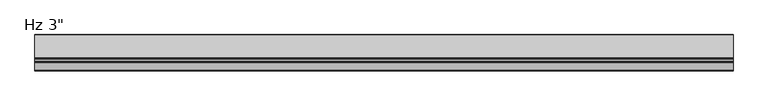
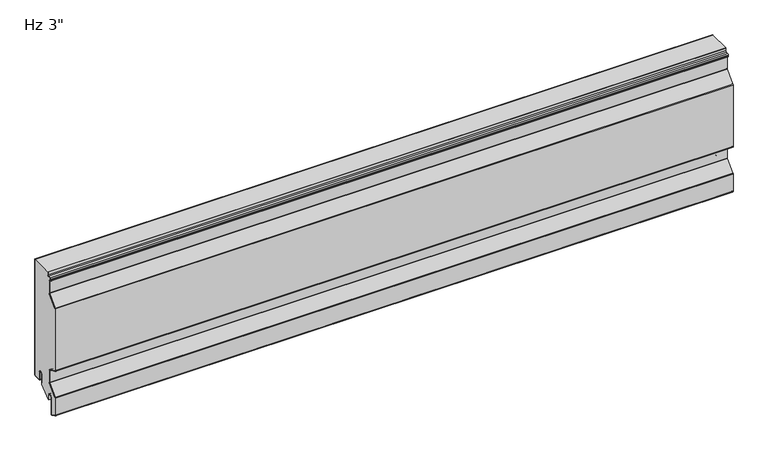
"""IFC4 building model written with IfcOpenShell, lengths in millimetres: plate geometry."""

from ifc_helpers import new_model, si_unit, point, frame, frame_2d, origin, place, context, project, spatial, polyline, circle_curve, trimmed, segment, composite_curve, outline, extrude, source, transform, mapped, element, save


def plate_f417a01e(model_context):
    return source(origin(), model_context, "Body", "SweptSolid", [
        extrude(outline(composite_curve([segment(polyline([(-26.4011912, 19.05), (-26.4011912, -3.1976612), (-49.233822, -23.01875), (-51.3886912, -23.01875), (-51.3886912, -11.90625)]), True, "CONTINUOUS"), segment(trimmed(circle_curve(frame_2d((-56.3574412, -11.90625)), 4.96875), [point((-51.3886912, -11.90625))], [point((-61.3261912, -11.90625))], True, "CARTESIAN"), True, "CONTINUOUS"), segment(polyline([(-61.3261912, -11.90625), (-61.3261912, -48.8194049)]), True, "CONTINUOUS"), segment(trimmed(circle_curve(frame_2d((-62.7074412, -48.8194049)), 1.38125), [point((-61.3261912, -48.8194049))], [point((-63.2666208, -50.0824052))], False, "CARTESIAN"), True, "CONTINUOUS"), segment(polyline([(-63.2666208, -50.0824052), (-74.3779296, -45.1629946)]), True, "CONTINUOUS"), segment(trimmed(circle_curve(frame_2d((-73.81875, -43.8999943)), 1.38125), [point((-74.3779296, -45.1629946))], [point((-75.2, -43.8999943))], False, "CARTESIAN"), True, "CONTINUOUS"), segment(polyline([(-75.2, -43.8999943), (-75.2, -5.0536946)]), True, "CONTINUOUS"), segment(trimmed(circle_curve(frame_2d((-73.1012, -5.0536946)), 2.0988), [point((-75.2, -5.0536946))], [point((-74.6092077, -3.5939431))], False, "CARTESIAN"), True, "CONTINUOUS"), segment(polyline([(-74.6092077, -3.5939431), (-54.4145567, 17.2682996)]), True, "CONTINUOUS"), segment(trimmed(circle_curve(frame_2d((-56.2737, 19.0679503)), 2.5875), [point((-54.4145567, 17.2682996))], [point((-53.6862, 19.0679503))], True, "CARTESIAN"), True, "CONTINUOUS"), segment(polyline([(-53.6862, 19.0679503), (-53.6862, 45.5917981)]), True, "CONTINUOUS"), segment(trimmed(circle_curve(frame_2d((-56.2737, 45.5917981)), 2.5875), [point((-53.6862, 45.5917981))], [point((-55.2261871, 47.9577806))], True, "CARTESIAN"), True, "CONTINUOUS"), segment(polyline([(-55.2261871, 47.9577806), (-74.3779296, 56.4370054)]), True, "CONTINUOUS"), segment(trimmed(circle_curve(frame_2d((-73.81875, 57.7000057)), 1.38125), [point((-74.3779296, 56.4370054))], [point((-75.2, 57.7000057))], False, "CARTESIAN"), True, "CONTINUOUS"), segment(polyline([(-75.2, 57.7000057), (-75.2, 198.4367131)]), True, "CONTINUOUS"), segment(trimmed(circle_curve(frame_2d((-73.81875, 198.4367131)), 1.38125), [point((-75.2, 198.4367131))], [point((-74.8111912, 199.3973962))], False, "CARTESIAN"), True, "CONTINUOUS"), segment(polyline([(-74.8111912, 199.3973962), (-54.4145567, 220.4682996)]), True, "CONTINUOUS"), segment(trimmed(circle_curve(frame_2d((-56.2737, 222.2679503)), 2.5875), [point((-54.4145567, 220.4682996))], [point((-53.6862, 222.2679503))], True, "CARTESIAN"), True, "CONTINUOUS"), segment(polyline([(-53.6862, 222.2679503), (-53.6862, 248.7917981)]), True, "CONTINUOUS"), segment(trimmed(circle_curve(frame_2d((-56.2737, 248.7917981)), 2.5875), [point((-53.6862, 248.7917981))], [point((-55.2261871, 251.1577806))], True, "CARTESIAN"), True, "CONTINUOUS"), segment(polyline([(-55.2261871, 251.1577806), (-56.9166208, 251.9062016)]), True, "CONTINUOUS"), segment(trimmed(circle_curve(frame_2d((-56.3574412, 253.1692019)), 1.38125), [point((-56.9166208, 251.9062016))], [point((-57.7386912, 253.1692019))], False, "CARTESIAN"), True, "CONTINUOUS"), segment(polyline([(-57.7386912, 253.1692019), (-57.7386912, 255.4967085)]), True, "CONTINUOUS"), segment(trimmed(circle_curve(frame_2d((-56.3574412, 255.4967085)), 1.38125), [point((-57.7386912, 255.4967085))], [point((-56.4297302, 256.8760655))], False, "CARTESIAN"), True, "CONTINUOUS"), segment(polyline([(-56.4297302, 256.8760655), (-50.6657719, 257.1781418)]), True, "CONTINUOUS"), segment(trimmed(circle_curve(frame_2d((-50.8011912, 259.7620957)), 2.5875), [point((-50.6657719, 257.1781418))], [point((-48.2136912, 259.7620957))], True, "CARTESIAN"), True, "CONTINUOUS"), segment(polyline([(-48.2136912, 259.7620957), (-48.2136912, 266.4), (-1.0011912, 266.4), (-1.0011912, 3.175)]), True, "CONTINUOUS"), segment(trimmed(circle_curve(frame_2d((-2.3824412, 3.175)), 1.38125), [point((-1.0011912, 3.175))], [point((-2.3824412, 1.79375))], False, "CARTESIAN"), True, "CONTINUOUS"), segment(polyline([(-2.3824412, 1.79375), (-15.0824412, 1.79375)]), True, "CONTINUOUS"), segment(trimmed(circle_curve(frame_2d((-15.0824412, 3.175)), 1.38125), [point((-15.0824412, 1.79375))], [point((-16.4636912, 3.175))], False, "CARTESIAN"), True, "CONTINUOUS"), segment(polyline([(-16.4636912, 3.175), (-16.4636912, 19.05)]), True, "CONTINUOUS"), segment(trimmed(circle_curve(frame_2d((-21.4324412, 19.05)), 4.96875), [point((-16.4636912, 19.05))], [point((-26.4011912, 19.05))], True, "CARTESIAN"), True, "CONTINUOUS")], self_intersect=False)), frame((-730.0, 0.0, 0.0), z_axis=(1.0, 0.0, 0.0), x_axis=(0.0, 1.0, 0.0)), (0.0, 0.0, 1.0), 1460.0),
        extrude(outline(composite_curve([segment(polyline([(-25.4, 0.79375), (-26.4, 0.79375), (-26.4, 19.05)]), True, "CONTINUOUS"), segment(trimmed(circle_curve(frame_2d((-21.43125, 19.05)), 4.96875), [point((-26.4, 19.05))], [point((-16.4625, 19.05))], False, "CARTESIAN"), True, "CONTINUOUS"), segment(polyline([(-16.4625, 19.05), (-16.4625, 3.175)]), True, "CONTINUOUS"), segment(trimmed(circle_curve(frame_2d((-15.08125, 3.175)), 1.38125), [point((-16.4625, 3.175))], [point((-15.08125, 1.79375))], True, "CARTESIAN"), True, "CONTINUOUS"), segment(polyline([(-15.08125, 1.79375), (-2.38125, 1.79375)]), True, "CONTINUOUS"), segment(trimmed(circle_curve(frame_2d((-2.38125, 3.175)), 1.38125), [point((-2.38125, 1.79375))], [point((-1.0, 3.175))], True, "CARTESIAN"), True, "CONTINUOUS"), segment(polyline([(-1.0, 3.175), (-1.0, 266.4), (0.0, 266.4), (0.0, 3.175)]), True, "CONTINUOUS"), segment(trimmed(circle_curve(frame_2d((-2.38125, 3.175)), 2.38125), [point((0.0, 3.175))], [point((-2.38125, 0.79375))], False, "CARTESIAN"), True, "CONTINUOUS"), segment(polyline([(-2.38125, 0.79375), (-15.08125, 0.79375)]), True, "CONTINUOUS"), segment(trimmed(circle_curve(frame_2d((-15.08125, 3.175)), 2.38125), [point((-15.08125, 0.79375))], [point((-17.4625, 3.175))], False, "CARTESIAN"), True, "CONTINUOUS"), segment(polyline([(-17.4625, 3.175), (-17.4625, 19.05)]), True, "CONTINUOUS"), segment(trimmed(circle_curve(frame_2d((-21.43125, 19.05)), 3.96875), [point((-17.4625, 19.05))], [point((-25.4, 19.05))], True, "CARTESIAN"), True, "CONTINUOUS"), segment(polyline([(-25.4, 19.05), (-25.4, 0.79375)]), True, "CONTINUOUS")], self_intersect=False)), frame((-730.0, 0.0, 0.0), z_axis=(1.0, 0.0, 0.0), x_axis=(0.0, 1.0, 0.0)), (0.0, 0.0, 1.0), 1460.0),
        extrude(outline(composite_curve([segment(polyline([(-60.3261912, -11.90625), (-60.3261912, -48.8194049)]), True, "CONTINUOUS"), segment(trimmed(circle_curve(frame_2d((-62.7074412, -48.8194049)), 2.38125), [point((-60.3261912, -48.8194049))], [point((-63.6714567, -50.9967946))], False, "CARTESIAN"), True, "CONTINUOUS"), segment(polyline([(-63.6714567, -50.9967946), (-74.7827655, -46.0773839)]), True, "CONTINUOUS"), segment(trimmed(circle_curve(frame_2d((-73.81875, -43.8999943)), 2.38125), [point((-74.7827655, -46.0773839))], [point((-76.2, -43.8999943))], False, "CARTESIAN"), True, "CONTINUOUS"), segment(polyline([(-76.2, -43.8999943), (-76.2, -5.0536946)]), True, "CONTINUOUS"), segment(trimmed(circle_curve(frame_2d((-73.1012, -5.0536946)), 3.0988), [point((-76.2, -5.0536946))], [point((-75.3277172, -2.8984259))], False, "CARTESIAN"), True, "CONTINUOUS"), segment(polyline([(-75.3277172, -2.8984259), (-55.1330662, 17.9638168)]), True, "CONTINUOUS"), segment(trimmed(circle_curve(frame_2d((-56.2737, 19.0679503)), 1.5875), [point((-55.1330662, 17.9638168))], [point((-54.6862, 19.0679503))], True, "CARTESIAN"), True, "CONTINUOUS"), segment(polyline([(-54.6862, 19.0679503), (-54.6862, 45.5917981)]), True, "CONTINUOUS"), segment(trimmed(circle_curve(frame_2d((-56.2737, 45.5917981)), 1.5875), [point((-54.6862, 45.5917981))], [point((-55.631023, 47.0433912))], True, "CARTESIAN"), True, "CONTINUOUS"), segment(polyline([(-55.631023, 47.0433912), (-74.7827655, 55.5226161)]), True, "CONTINUOUS"), segment(trimmed(circle_curve(frame_2d((-73.81875, 57.7000057)), 2.38125), [point((-74.7827655, 55.5226161))], [point((-76.2, 57.7000057))], False, "CARTESIAN"), True, "CONTINUOUS"), segment(polyline([(-76.2, 57.7000057), (-76.2, 198.4367131)]), True, "CONTINUOUS"), segment(trimmed(circle_curve(frame_2d((-73.81875, 198.4367131)), 2.38125), [point((-76.2, 198.4367131))], [point((-75.5297007, 200.0929134))], False, "CARTESIAN"), True, "CONTINUOUS"), segment(polyline([(-75.5297007, 200.0929134), (-55.1330662, 221.1638168)]), True, "CONTINUOUS"), segment(trimmed(circle_curve(frame_2d((-56.2737, 222.2679503)), 1.5875), [point((-55.1330662, 221.1638168))], [point((-54.6862, 222.2679503))], True, "CARTESIAN"), True, "CONTINUOUS"), segment(polyline([(-54.6862, 222.2679503), (-54.6862, 248.7917981)]), True, "CONTINUOUS"), segment(trimmed(circle_curve(frame_2d((-56.2737, 248.7917981)), 1.5875), [point((-54.6862, 248.7917981))], [point((-55.631023, 250.2433912))], True, "CARTESIAN"), True, "CONTINUOUS"), segment(polyline([(-55.631023, 250.2433912), (-57.3214567, 250.9918123)]), True, "CONTINUOUS"), segment(trimmed(circle_curve(frame_2d((-56.3574412, 253.1692019)), 2.38125), [point((-57.3214567, 250.9918123))], [point((-58.7386912, 253.1692019))], False, "CARTESIAN"), True, "CONTINUOUS"), segment(polyline([(-58.7386912, 253.1692019), (-58.7386912, 255.4967085)]), True, "CONTINUOUS"), segment(trimmed(circle_curve(frame_2d((-56.3574412, 255.4967085)), 2.38125), [point((-58.7386912, 255.4967085))], [point((-56.4820662, 257.8746951))], False, "CARTESIAN"), True, "CONTINUOUS"), segment(polyline([(-56.4820662, 257.8746951), (-50.7181078, 258.1767713)]), True, "CONTINUOUS"), segment(trimmed(circle_curve(frame_2d((-50.8011912, 259.7620957)), 1.5875), [point((-50.7181078, 258.1767713))], [point((-49.2136912, 259.7620957))], True, "CARTESIAN"), True, "CONTINUOUS"), segment(polyline([(-49.2136912, 259.7620957), (-49.2136912, 266.4), (-48.2136912, 266.4), (-48.2136912, 259.7620957)]), True, "CONTINUOUS"), segment(trimmed(circle_curve(frame_2d((-50.8011912, 259.7620957)), 2.5875), [point((-48.2136912, 259.7620957))], [point((-50.6657719, 257.1781418))], False, "CARTESIAN"), True, "CONTINUOUS"), segment(polyline([(-50.6657719, 257.1781418), (-56.4297302, 256.8760655)]), True, "CONTINUOUS"), segment(trimmed(circle_curve(frame_2d((-56.3574412, 255.4967085)), 1.38125), [point((-56.4297302, 256.8760655))], [point((-57.7386912, 255.4967085))], True, "CARTESIAN"), True, "CONTINUOUS"), segment(polyline([(-57.7386912, 255.4967085), (-57.7386912, 253.1692019)]), True, "CONTINUOUS"), segment(trimmed(circle_curve(frame_2d((-56.3574412, 253.1692019)), 1.38125), [point((-57.7386912, 253.1692019))], [point((-56.9166208, 251.9062016))], True, "CARTESIAN"), True, "CONTINUOUS"), segment(polyline([(-56.9166208, 251.9062016), (-55.2261871, 251.1577806)]), True, "CONTINUOUS"), segment(trimmed(circle_curve(frame_2d((-56.2737, 248.7917981)), 2.5875), [point((-55.2261871, 251.1577806))], [point((-53.6862, 248.7917981))], False, "CARTESIAN"), True, "CONTINUOUS"), segment(polyline([(-53.6862, 248.7917981), (-53.6862, 222.2679503)]), True, "CONTINUOUS"), segment(trimmed(circle_curve(frame_2d((-56.2737, 222.2679503)), 2.5875), [point((-53.6862, 222.2679503))], [point((-54.4145567, 220.4682996))], False, "CARTESIAN"), True, "CONTINUOUS"), segment(polyline([(-54.4145567, 220.4682996), (-74.8111912, 199.3973962)]), True, "CONTINUOUS"), segment(trimmed(circle_curve(frame_2d((-73.81875, 198.4367131)), 1.38125), [point((-74.8111912, 199.3973962))], [point((-75.2, 198.4367131))], True, "CARTESIAN"), True, "CONTINUOUS"), segment(polyline([(-75.2, 198.4367131), (-75.2, 57.7000057)]), True, "CONTINUOUS"), segment(trimmed(circle_curve(frame_2d((-73.81875, 57.7000057)), 1.38125), [point((-75.2, 57.7000057))], [point((-74.3779296, 56.4370054))], True, "CARTESIAN"), True, "CONTINUOUS"), segment(polyline([(-74.3779296, 56.4370054), (-55.2261871, 47.9577806)]), True, "CONTINUOUS"), segment(trimmed(circle_curve(frame_2d((-56.2737, 45.5917981)), 2.5875), [point((-55.2261871, 47.9577806))], [point((-53.6862, 45.5917981))], False, "CARTESIAN"), True, "CONTINUOUS"), segment(polyline([(-53.6862, 45.5917981), (-53.6862, 19.0679503)]), True, "CONTINUOUS"), segment(trimmed(circle_curve(frame_2d((-56.2737, 19.0679503)), 2.5875), [point((-53.6862, 19.0679503))], [point((-54.4145567, 17.2682996))], False, "CARTESIAN"), True, "CONTINUOUS"), segment(polyline([(-54.4145567, 17.2682996), (-74.6092077, -3.5939431)]), True, "CONTINUOUS"), segment(trimmed(circle_curve(frame_2d((-73.1012, -5.0536946)), 2.0988), [point((-74.6092077, -3.5939431))], [point((-75.2, -5.0536946))], True, "CARTESIAN"), True, "CONTINUOUS"), segment(polyline([(-75.2, -5.0536946), (-75.2, -43.8999943)]), True, "CONTINUOUS"), segment(trimmed(circle_curve(frame_2d((-73.81875, -43.8999943)), 1.38125), [point((-75.2, -43.8999943))], [point((-74.3779296, -45.1629946))], True, "CARTESIAN"), True, "CONTINUOUS"), segment(polyline([(-74.3779296, -45.1629946), (-63.2666208, -50.0824052)]), True, "CONTINUOUS"), segment(trimmed(circle_curve(frame_2d((-62.7074412, -48.8194049)), 1.38125), [point((-63.2666208, -50.0824052))], [point((-61.3261912, -48.8194049))], True, "CARTESIAN"), True, "CONTINUOUS"), segment(polyline([(-61.3261912, -48.8194049), (-61.3261912, -11.90625)]), True, "CONTINUOUS"), segment(trimmed(circle_curve(frame_2d((-56.3574412, -11.90625)), 4.96875), [point((-61.3261912, -11.90625))], [point((-51.3886912, -11.90625))], False, "CARTESIAN"), True, "CONTINUOUS"), segment(polyline([(-51.3886912, -11.90625), (-51.3886912, -23.01875), (-52.3886912, -23.01875), (-52.3886912, -11.90625)]), True, "CONTINUOUS"), segment(trimmed(circle_curve(frame_2d((-56.3574412, -11.90625)), 3.96875), [point((-52.3886912, -11.90625))], [point((-60.3261912, -11.90625))], True, "CARTESIAN"), True, "CONTINUOUS")], self_intersect=False)), frame((-730.0, 0.0, 0.0), z_axis=(1.0, 0.0, 0.0), x_axis=(0.0, 1.0, 0.0)), (0.0, 0.0, 1.0), 1460.0),
    ])


if __name__ == "__main__":
    model = new_model("IFC4")
    model_context = context("Model", 3, world=origin())
    ifc_project = project(units=[si_unit("LENGTHUNIT", "METRE", prefix="MILLI")], contexts=[model_context])
    site = spatial("IfcSite", under=ifc_project)
    building = spatial("IfcBuilding", under=site)
    placement = place(None, origin())
    plate_shape = plate_f417a01e(model_context)
    element("IfcPlate", 1, ObjectType="KIP-12-DWR-R19-CP-Hz-A : Hz 3\"", at=placement, inside=building, context=model_context, shape_type="MappedRepresentation", body=[
        mapped(plate_shape, transform((0.0, 0.0, 0.0), x_axis=(1.0, 0.0, 0.0), y_axis=(0.0, 1.0, 0.0), z_axis=(0.0, 0.0, 1.0))),
    ])
    save(model, "model.ifc")
